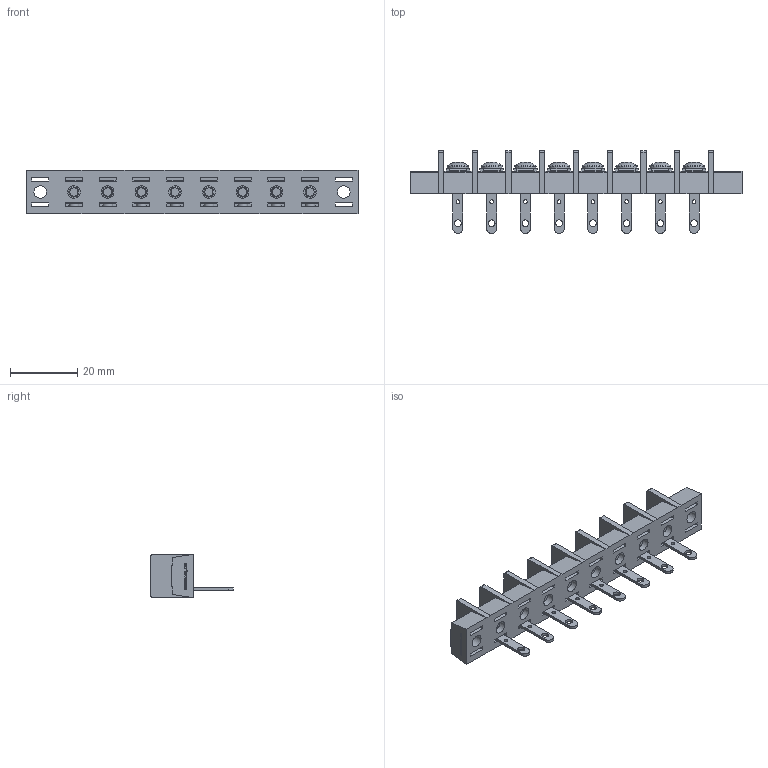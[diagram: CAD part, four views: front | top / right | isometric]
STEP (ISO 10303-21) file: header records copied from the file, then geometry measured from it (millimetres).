
FILE_DESCRIPTION(/* description */ ('Alibre Inc.'),/* implementation_level */ '2;1');
FILE_NAME(/* name */ 'export0',/* time_stamp */ '2015-10-22T20:38:15+09:00',/* author */ (''),/* organization */ (''),/* preprocessor_version */ 'ST-DEVELOPER v14',/* originating_system */ 'Alibre',/* authorisation */ '');
FILE_SCHEMA (('CONFIG_CONTROL_DESIGN'));
Length unit declared in the file: centimetre
Products named in the file (1): ID_1
Bounding box: 98.4 x 24.5 x 12.8 mm (x, y, z)
Volume: 8765.8 mm3; surface area: 10526.4 mm2
Topology: 1 solids, 137 shells, 2676 faces, 6870 edges, 4542 vertices
Faces by surface type: plane 1990, bspline 520, cylinder 102, cone 40, torus 16, sphere 8
Full cylindrical faces by diameter (mm): 1.1 x8, 2 x8, 3 x16, 3.7 x10, 4.6 x10, 6.3 x8
Entity records: 77539 total; most frequent: CARTESIAN_POINT 18695, ORIENTED_EDGE 13552, DIRECTION 8166, EDGE_CURVE 6776, VECTOR 5202, LINE 5202, VERTEX_POINT 4532, EDGE_LOOP 2990
